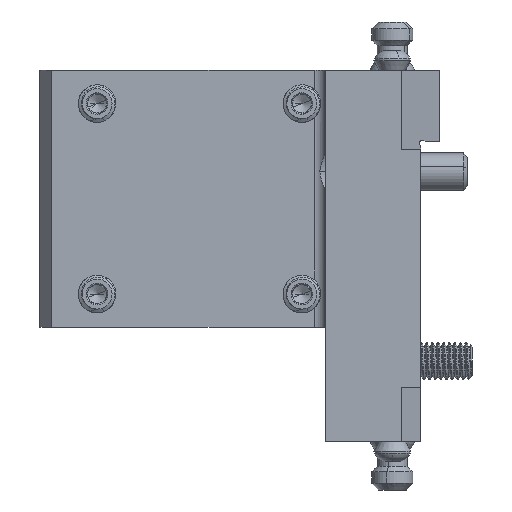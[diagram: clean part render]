
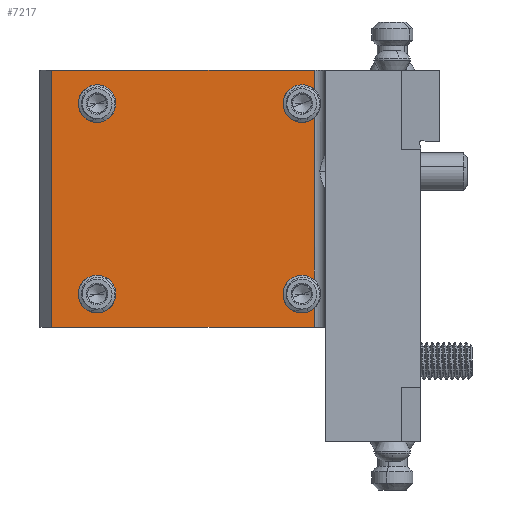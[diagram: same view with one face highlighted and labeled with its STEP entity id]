
A CAD part, left-side view. The second image highlights one B-rep face of the part: STEP entity #7217.
In plain terms, the highlighted planar face has unit normal (-1, 0, 0).
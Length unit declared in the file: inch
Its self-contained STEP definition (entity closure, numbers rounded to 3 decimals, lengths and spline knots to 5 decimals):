
#347 = AXIS2_PLACEMENT_3D ( 'NONE', #13791, #17192, #1032 ) ;
#709 = AXIS2_PLACEMENT_3D ( 'NONE', #20567, #5937, #19242 ) ;
#970 = EDGE_CURVE ( 'NONE', #20312, #9029, #13113, .T. ) ;
#1032 = DIRECTION ( 'NONE',  ( 0., -1., 0. ) ) ;
#1245 = EDGE_CURVE ( 'NONE', #5045, #12932, #15676, .T. ) ;
#1343 = CIRCLE ( 'NONE', #12136, 0.19685 ) ;
#1474 = ORIENTED_EDGE ( 'NONE', *, *, #9635, .F. ) ;
#2029 = CARTESIAN_POINT ( 'NONE',  ( -0.9, 3.4, 0.4 ) ) ;
#2192 = EDGE_CURVE ( 'NONE', #11716, #3680, #18724, .T. ) ;
#2405 = DIRECTION ( 'NONE',  ( 0., -1., 0. ) ) ;
#2550 = AXIS2_PLACEMENT_3D ( 'NONE', #8065, #19638, #21170 ) ;
#2814 = ORIENTED_EDGE ( 'NONE', *, *, #12919, .F. ) ;
#3135 = ORIENTED_EDGE ( 'NONE', *, *, #2192, .F. ) ;
#3595 = ORIENTED_EDGE ( 'NONE', *, *, #15628, .F. ) ;
#3680 = VERTEX_POINT ( 'NONE', #18736 ) ;
#3746 = CIRCLE ( 'NONE', #12118, 0.19685 ) ;
#3856 = ORIENTED_EDGE ( 'NONE', *, *, #1245, .F. ) ;
#4038 = EDGE_CURVE ( 'NONE', #12370, #5045, #10292, .T. ) ;
#4261 = CARTESIAN_POINT ( 'NONE',  ( -0.9, 1.12, -3.15 ) ) ;
#4279 = EDGE_CURVE ( 'NONE', #11506, #12370, #21319, .T. ) ;
#4391 = VECTOR ( 'NONE', #11361, 39.37008 ) ;
#4615 = CARTESIAN_POINT ( 'NONE',  ( -0.9, 1.12, -3.15 ) ) ;
#4819 = VERTEX_POINT ( 'NONE', #21183 ) ;
#4841 = VECTOR ( 'NONE', #7124, 39.37008 ) ;
#5039 = EDGE_LOOP ( 'NONE', ( #10778, #3595 ) ) ;
#5045 = VERTEX_POINT ( 'NONE', #14267 ) ;
#5084 = DIRECTION ( 'NONE',  ( 0., -1., 0. ) ) ;
#5222 = DIRECTION ( 'NONE',  ( -1., 0., 0. ) ) ;
#5611 = CARTESIAN_POINT ( 'NONE',  ( -0.9, 3.4, 0.20315 ) ) ;
#5898 = VECTOR ( 'NONE', #20435, 39.37008 ) ;
#5937 = DIRECTION ( 'NONE',  ( -1., 0., 0. ) ) ;
#6070 = VERTEX_POINT ( 'NONE', #18021 ) ;
#6132 = CARTESIAN_POINT ( 'NONE',  ( -0.9, 3.87657, -1.95 ) ) ;
#6153 = AXIS2_PLACEMENT_3D ( 'NONE', #15050, #5222, #8602 ) ;
#6157 = VERTEX_POINT ( 'NONE', #15172 ) ;
#6394 = CARTESIAN_POINT ( 'NONE',  ( -0.9, 1.25, 0.4 ) ) ;
#6397 = DIRECTION ( 'NONE',  ( 0., -1., 0. ) ) ;
#6494 = CARTESIAN_POINT ( 'NONE',  ( -0.9, 1.25, 0.4 ) ) ;
#6621 = CARTESIAN_POINT ( 'NONE',  ( -0.9, 3.4, 0.4 ) ) ;
#6635 = ORIENTED_EDGE ( 'NONE', *, *, #19579, .F. ) ;
#6829 = CARTESIAN_POINT ( 'NONE',  ( -0.9, 3.4, -1.6 ) ) ;
#6924 = CARTESIAN_POINT ( 'NONE',  ( -0.9, 1.25, 0.59685 ) ) ;
#6940 = AXIS2_PLACEMENT_3D ( 'NONE', #6829, #20261, #5084 ) ;
#7124 = DIRECTION ( 'NONE',  ( 0., 0., 1. ) ) ;
#7137 = EDGE_CURVE ( 'NONE', #10918, #6070, #16751, .T. ) ;
#7217 = ADVANCED_FACE ( 'NONE', ( #17507, #10834, #13907 ), #14113, .T. ) ;
#7689 = EDGE_CURVE ( 'NONE', #19200, #10489, #13982, .T. ) ;
#7785 = EDGE_CURVE ( 'NONE', #4819, #12932, #10931, .T. ) ;
#8065 = CARTESIAN_POINT ( 'NONE',  ( -0.9, 1.25, -1.6 ) ) ;
#8244 = DIRECTION ( 'NONE',  ( 0., -1., 0. ) ) ;
#8585 = VECTOR ( 'NONE', #15770, 39.37008 ) ;
#8597 = ORIENTED_EDGE ( 'NONE', *, *, #7689, .T. ) ;
#8602 = DIRECTION ( 'NONE',  ( 0., -1., 0. ) ) ;
#8630 = CIRCLE ( 'NONE', #15259, 0.19685 ) ;
#8667 = ORIENTED_EDGE ( 'NONE', *, *, #4038, .F. ) ;
#8958 = CARTESIAN_POINT ( 'NONE',  ( -0.9, 1.25, -1.6 ) ) ;
#9029 = VERTEX_POINT ( 'NONE', #14059 ) ;
#9071 = CARTESIAN_POINT ( 'NONE',  ( -0.9, 1.12, 0.75 ) ) ;
#9408 = CARTESIAN_POINT ( 'NONE',  ( -0.9, 1.12, -1.45218 ) ) ;
#9635 = EDGE_CURVE ( 'NONE', #6070, #10489, #1343, .T. ) ;
#9757 = DIRECTION ( 'NONE',  ( -1., 0., 0. ) ) ;
#9787 = DIRECTION ( 'NONE',  ( -1., 0., 0. ) ) ;
#9803 = CARTESIAN_POINT ( 'NONE',  ( -0.9, 1.12, -3.15 ) ) ;
#9870 = DIRECTION ( 'NONE',  ( -1., 0., 0. ) ) ;
#10186 = CARTESIAN_POINT ( 'NONE',  ( -0.9, 3.87657, -1.95 ) ) ;
#10257 = ORIENTED_EDGE ( 'NONE', *, *, #4279, .F. ) ;
#10292 = LINE ( 'NONE', #11831, #4841 ) ;
#10306 = CARTESIAN_POINT ( 'NONE',  ( -0.9, 1.25, -1.40315 ) ) ;
#10390 = EDGE_LOOP ( 'NONE', ( #11938, #8597, #1474, #13015, #15149, #19343, #3856, #8667, #10257, #10957, #2814, #6635 ) ) ;
#10489 = VERTEX_POINT ( 'NONE', #18238 ) ;
#10770 = CIRCLE ( 'NONE', #6940, 0.19685 ) ;
#10778 = ORIENTED_EDGE ( 'NONE', *, *, #970, .F. ) ;
#10834 = FACE_OUTER_BOUND ( 'NONE', #10390, .T. ) ;
#10918 = VERTEX_POINT ( 'NONE', #6924 ) ;
#10919 = CIRCLE ( 'NONE', #2550, 0.19685 ) ;
#10931 = LINE ( 'NONE', #9803, #21250 ) ;
#10956 = CARTESIAN_POINT ( 'NONE',  ( -0.9, 3.87657, 0.75 ) ) ;
#10957 = ORIENTED_EDGE ( 'NONE', *, *, #15858, .T. ) ;
#11015 = AXIS2_PLACEMENT_3D ( 'NONE', #6621, #9787, #6397 ) ;
#11361 = DIRECTION ( 'NONE',  ( 0., 1., 0. ) ) ;
#11429 = ORIENTED_EDGE ( 'NONE', *, *, #11511, .F. ) ;
#11506 = VERTEX_POINT ( 'NONE', #15026 ) ;
#11511 = EDGE_CURVE ( 'NONE', #3680, #11716, #10770, .T. ) ;
#11716 = VERTEX_POINT ( 'NONE', #17748 ) ;
#11831 = CARTESIAN_POINT ( 'NONE',  ( -0.9, 3.87657, -3.15 ) ) ;
#11938 = ORIENTED_EDGE ( 'NONE', *, *, #16431, .F. ) ;
#12118 = AXIS2_PLACEMENT_3D ( 'NONE', #2029, #13917, #18519 ) ;
#12136 = AXIS2_PLACEMENT_3D ( 'NONE', #6494, #9870, #15010 ) ;
#12370 = VERTEX_POINT ( 'NONE', #10186 ) ;
#12581 = VERTEX_POINT ( 'NONE', #19354 ) ;
#12919 = EDGE_CURVE ( 'NONE', #12581, #6157, #17804, .T. ) ;
#12920 = CARTESIAN_POINT ( 'NONE',  ( -0.9, 1.25, -1.6 ) ) ;
#12932 = VERTEX_POINT ( 'NONE', #9071 ) ;
#13015 = ORIENTED_EDGE ( 'NONE', *, *, #7137, .F. ) ;
#13113 = CIRCLE ( 'NONE', #11015, 0.19685 ) ;
#13126 = LINE ( 'NONE', #4615, #15620 ) ;
#13791 = CARTESIAN_POINT ( 'NONE',  ( -0.9, 3.87657, -3.15 ) ) ;
#13907 = FACE_BOUND ( 'NONE', #5039, .T. ) ;
#13917 = DIRECTION ( 'NONE',  ( -1., 0., 0. ) ) ;
#13955 = AXIS2_PLACEMENT_3D ( 'NONE', #8958, #17372, #2405 ) ;
#13982 = LINE ( 'NONE', #4261, #5898 ) ;
#14059 = CARTESIAN_POINT ( 'NONE',  ( -0.9, 3.4, 0.59685 ) ) ;
#14113 = PLANE ( 'NONE',  #347 ) ;
#14267 = CARTESIAN_POINT ( 'NONE',  ( -0.9, 3.87657, 0.75 ) ) ;
#15010 = DIRECTION ( 'NONE',  ( 0., -1., 0. ) ) ;
#15026 = CARTESIAN_POINT ( 'NONE',  ( -0.9, 1.12, -1.95 ) ) ;
#15050 = CARTESIAN_POINT ( 'NONE',  ( -0.9, 3.4, -1.6 ) ) ;
#15149 = ORIENTED_EDGE ( 'NONE', *, *, #15530, .F. ) ;
#15172 = CARTESIAN_POINT ( 'NONE',  ( -0.9, 1.12, -1.74782 ) ) ;
#15259 = AXIS2_PLACEMENT_3D ( 'NONE', #6394, #18192, #8244 ) ;
#15530 = EDGE_CURVE ( 'NONE', #4819, #10918, #8630, .T. ) ;
#15620 = VECTOR ( 'NONE', #18166, 39.37008 ) ;
#15628 = EDGE_CURVE ( 'NONE', #9029, #20312, #3746, .T. ) ;
#15676 = LINE ( 'NONE', #10956, #8585 ) ;
#15770 = DIRECTION ( 'NONE',  ( 0., -1., 0. ) ) ;
#15858 = EDGE_CURVE ( 'NONE', #11506, #6157, #13126, .T. ) ;
#15977 = CIRCLE ( 'NONE', #18072, 0.19685 ) ;
#16431 = EDGE_CURVE ( 'NONE', #19200, #17405, #15977, .T. ) ;
#16464 = DIRECTION ( 'NONE',  ( 0., 0., 1. ) ) ;
#16582 = EDGE_LOOP ( 'NONE', ( #11429, #3135 ) ) ;
#16751 = CIRCLE ( 'NONE', #709, 0.19685 ) ;
#17192 = DIRECTION ( 'NONE',  ( -1., 0., 0. ) ) ;
#17372 = DIRECTION ( 'NONE',  ( -1., 0., 0. ) ) ;
#17405 = VERTEX_POINT ( 'NONE', #10306 ) ;
#17507 = FACE_BOUND ( 'NONE', #16582, .T. ) ;
#17748 = CARTESIAN_POINT ( 'NONE',  ( -0.9, 3.4, -1.40315 ) ) ;
#17804 = CIRCLE ( 'NONE', #13955, 0.19685 ) ;
#18021 = CARTESIAN_POINT ( 'NONE',  ( -0.9, 1.25, 0.20315 ) ) ;
#18072 = AXIS2_PLACEMENT_3D ( 'NONE', #12920, #9757, #19909 ) ;
#18166 = DIRECTION ( 'NONE',  ( 0., 0., 1. ) ) ;
#18192 = DIRECTION ( 'NONE',  ( -1., 0., 0. ) ) ;
#18238 = CARTESIAN_POINT ( 'NONE',  ( -0.9, 1.12, 0.25218 ) ) ;
#18519 = DIRECTION ( 'NONE',  ( 0., -1., 0. ) ) ;
#18724 = CIRCLE ( 'NONE', #6153, 0.19685 ) ;
#18736 = CARTESIAN_POINT ( 'NONE',  ( -0.9, 3.4, -1.79685 ) ) ;
#19200 = VERTEX_POINT ( 'NONE', #9408 ) ;
#19242 = DIRECTION ( 'NONE',  ( 0., -1., 0. ) ) ;
#19343 = ORIENTED_EDGE ( 'NONE', *, *, #7785, .T. ) ;
#19354 = CARTESIAN_POINT ( 'NONE',  ( -0.9, 1.25, -1.79685 ) ) ;
#19579 = EDGE_CURVE ( 'NONE', #17405, #12581, #10919, .T. ) ;
#19638 = DIRECTION ( 'NONE',  ( -1., 0., 0. ) ) ;
#19909 = DIRECTION ( 'NONE',  ( 0., -1., 0. ) ) ;
#20261 = DIRECTION ( 'NONE',  ( -1., 0., 0. ) ) ;
#20312 = VERTEX_POINT ( 'NONE', #5611 ) ;
#20435 = DIRECTION ( 'NONE',  ( 0., 0., 1. ) ) ;
#20567 = CARTESIAN_POINT ( 'NONE',  ( -0.9, 1.25, 0.4 ) ) ;
#21170 = DIRECTION ( 'NONE',  ( 0., -1., 0. ) ) ;
#21183 = CARTESIAN_POINT ( 'NONE',  ( -0.9, 1.12, 0.54782 ) ) ;
#21250 = VECTOR ( 'NONE', #16464, 39.37008 ) ;
#21319 = LINE ( 'NONE', #6132, #4391 ) ;
